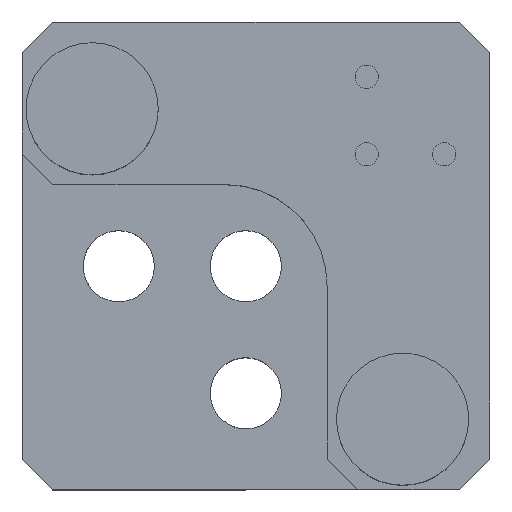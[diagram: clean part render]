
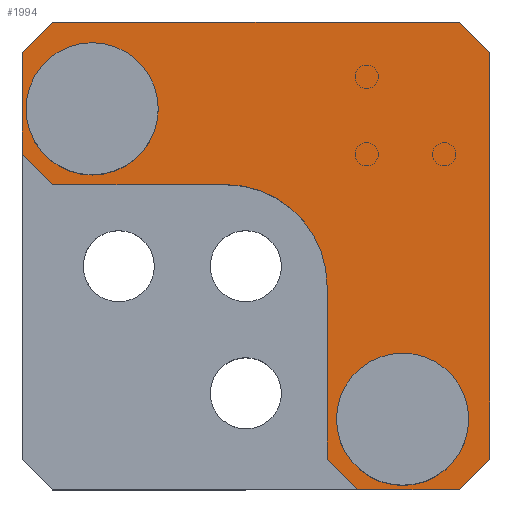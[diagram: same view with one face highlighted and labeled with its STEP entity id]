
A CAD part, top view. The second image highlights one B-rep face of the part: STEP entity #1994.
In plain terms, the highlighted planar face has unit normal (0, 0, -1).
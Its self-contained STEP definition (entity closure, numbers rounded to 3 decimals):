
#57 = VECTOR ( 'NONE', #2281, 1000. ) ;
#66 = VERTEX_POINT ( 'NONE', #904 ) ;
#67 = EDGE_CURVE ( 'NONE', #829, #632, #1660, .T. ) ;
#104 = VERTEX_POINT ( 'NONE', #1348 ) ;
#127 = CARTESIAN_POINT ( 'NONE',  ( -44.488, 23.276, 48.8 ) ) ;
#201 = CARTESIAN_POINT ( 'NONE',  ( -7.068, -15.844, 48.8 ) ) ;
#213 = CARTESIAN_POINT ( 'NONE',  ( 1.512, -19.724, 48.8 ) ) ;
#221 = EDGE_CURVE ( 'NONE', #774, #507, #2237, .T. ) ;
#275 = AXIS2_PLACEMENT_3D ( 'NONE', #565, #1806, #579 ) ;
#279 = DIRECTION ( 'NONE',  ( -1., 0., 0. ) ) ;
#280 = CARTESIAN_POINT ( 'NONE',  ( -14.488, -22.724, 48.8 ) ) ;
#306 = DIRECTION ( 'NONE',  ( 1., 0., 0. ) ) ;
#340 = CARTESIAN_POINT ( 'NONE',  ( -14.488, -2.724, 48.8 ) ) ;
#358 = LINE ( 'NONE', #2143, #764 ) ;
#376 = CARTESIAN_POINT ( 'NONE',  ( -9.948, -15.844, 48.8 ) ) ;
#378 = CARTESIAN_POINT ( 'NONE',  ( -24.488, 7.276, 48.8 ) ) ;
#392 = VERTEX_POINT ( 'NONE', #488 ) ;
#394 = ORIENTED_EDGE ( 'NONE', *, *, #821, .F. ) ;
#407 = DIRECTION ( 'NONE',  ( 0.707, -0.707, 0. ) ) ;
#408 = CIRCLE ( 'NONE', #2111, 2.88 ) ;
#432 = EDGE_CURVE ( 'NONE', #1020, #774, #1934, .T. ) ;
#463 = VECTOR ( 'NONE', #1290, 1000. ) ;
#477 = VERTEX_POINT ( 'NONE', #703 ) ;
#483 = DIRECTION ( 'NONE',  ( 0., 0., -1. ) ) ;
#488 = CARTESIAN_POINT ( 'NONE',  ( -1.488, -22.724, 48.8 ) ) ;
#507 = VERTEX_POINT ( 'NONE', #1416 ) ;
#509 = DIRECTION ( 'NONE',  ( 0., 1., 0. ) ) ;
#543 = DIRECTION ( 'NONE',  ( -1., 0., 0. ) ) ;
#544 = DIRECTION ( 'NONE',  ( -0.707, 0.707, 0. ) ) ;
#548 = LINE ( 'NONE', #862, #57 ) ;
#565 = CARTESIAN_POINT ( 'NONE',  ( -37.608, 14.696, 48.8 ) ) ;
#566 = PLANE ( 'NONE',  #1614 ) ;
#572 = CARTESIAN_POINT ( 'NONE',  ( -14.488, -19.724, 48.8 ) ) ;
#579 = DIRECTION ( 'NONE',  ( -1., 0., 0. ) ) ;
#589 = ORIENTED_EDGE ( 'NONE', *, *, #1040, .F. ) ;
#622 = CARTESIAN_POINT ( 'NONE',  ( -40.488, 14.696, 48.8 ) ) ;
#632 = VERTEX_POINT ( 'NONE', #1611 ) ;
#648 = ORIENTED_EDGE ( 'NONE', *, *, #1166, .F. ) ;
#650 = CARTESIAN_POINT ( 'NONE',  ( -24.488, 7.276, 48.8 ) ) ;
#652 = DIRECTION ( 'NONE',  ( -1., 0., 0. ) ) ;
#666 = ORIENTED_EDGE ( 'NONE', *, *, #221, .F. ) ;
#668 = VERTEX_POINT ( 'NONE', #1156 ) ;
#692 = DIRECTION ( 'NONE',  ( 0., -1., 0. ) ) ;
#703 = CARTESIAN_POINT ( 'NONE',  ( -44.488, 10.276, 48.8 ) ) ;
#717 = VERTEX_POINT ( 'NONE', #971 ) ;
#745 = CIRCLE ( 'NONE', #275, 2.88 ) ;
#749 = DIRECTION ( 'NONE',  ( 0., 0., -1. ) ) ;
#764 = VECTOR ( 'NONE', #407, 1000. ) ;
#768 = FACE_BOUND ( 'NONE', #1477, .T. ) ;
#774 = VERTEX_POINT ( 'NONE', #1276 ) ;
#786 = CARTESIAN_POINT ( 'NONE',  ( -41.488, 7.276, 48.8 ) ) ;
#799 = CARTESIAN_POINT ( 'NONE',  ( -7.068, -15.844, 48.8 ) ) ;
#808 = ORIENTED_EDGE ( 'NONE', *, *, #67, .F. ) ;
#821 = EDGE_CURVE ( 'NONE', #717, #477, #2265, .T. ) ;
#829 = VERTEX_POINT ( 'NONE', #622 ) ;
#862 = CARTESIAN_POINT ( 'NONE',  ( 1.512, -22.724, 48.8 ) ) ;
#883 = VECTOR ( 'NONE', #544, 1000. ) ;
#904 = CARTESIAN_POINT ( 'NONE',  ( -4.188, -15.844, 48.8 ) ) ;
#906 = LINE ( 'NONE', #280, #2102 ) ;
#913 = DIRECTION ( 'NONE',  ( 0., 0., 1. ) ) ;
#926 = LINE ( 'NONE', #1018, #463 ) ;
#938 = VERTEX_POINT ( 'NONE', #378 ) ;
#971 = CARTESIAN_POINT ( 'NONE',  ( -44.488, 20.276, 48.8 ) ) ;
#992 = EDGE_CURVE ( 'NONE', #392, #668, #1296, .T. ) ;
#1018 = CARTESIAN_POINT ( 'NONE',  ( -11.488, -22.724, 48.8 ) ) ;
#1020 = VERTEX_POINT ( 'NONE', #1777 ) ;
#1040 = EDGE_CURVE ( 'NONE', #477, #1938, #358, .T. ) ;
#1057 = AXIS2_PLACEMENT_3D ( 'NONE', #1260, #749, #1990 ) ;
#1076 = ORIENTED_EDGE ( 'NONE', *, *, #2002, .F. ) ;
#1095 = DIRECTION ( 'NONE',  ( 1., 0., 0. ) ) ;
#1121 = VECTOR ( 'NONE', #1427, 1000. ) ;
#1134 = VERTEX_POINT ( 'NONE', #340 ) ;
#1147 = EDGE_CURVE ( 'NONE', #66, #2224, #408, .T. ) ;
#1156 = CARTESIAN_POINT ( 'NONE',  ( 1.512, -19.724, 48.8 ) ) ;
#1163 = CARTESIAN_POINT ( 'NONE',  ( -24.488, -2.724, 48.8 ) ) ;
#1166 = EDGE_CURVE ( 'NONE', #104, #392, #548, .T. ) ;
#1174 = DIRECTION ( 'NONE',  ( 0., 0., -1. ) ) ;
#1249 = ORIENTED_EDGE ( 'NONE', *, *, #1147, .F. ) ;
#1260 = CARTESIAN_POINT ( 'NONE',  ( -37.608, 14.696, 48.8 ) ) ;
#1270 = VECTOR ( 'NONE', #306, 1000. ) ;
#1276 = CARTESIAN_POINT ( 'NONE',  ( -1.488, 23.276, 48.8 ) ) ;
#1290 = DIRECTION ( 'NONE',  ( 0.707, -0.707, 0. ) ) ;
#1296 = LINE ( 'NONE', #213, #1121 ) ;
#1297 = EDGE_CURVE ( 'NONE', #2029, #104, #926, .T. ) ;
#1309 = ORIENTED_EDGE ( 'NONE', *, *, #1328, .F. ) ;
#1328 = EDGE_CURVE ( 'NONE', #2224, #66, #1713, .T. ) ;
#1348 = CARTESIAN_POINT ( 'NONE',  ( -11.488, -22.724, 48.8 ) ) ;
#1364 = ORIENTED_EDGE ( 'NONE', *, *, #2166, .F. ) ;
#1414 = EDGE_CURVE ( 'NONE', #668, #1020, #1519, .T. ) ;
#1416 = CARTESIAN_POINT ( 'NONE',  ( -41.488, 23.276, 48.8 ) ) ;
#1427 = DIRECTION ( 'NONE',  ( 0.707, 0.707, 0. ) ) ;
#1450 = CARTESIAN_POINT ( 'NONE',  ( -24.488, -2.724, 48.8 ) ) ;
#1477 = EDGE_LOOP ( 'NONE', ( #808, #2216 ) ) ;
#1487 = VECTOR ( 'NONE', #2210, 1000. ) ;
#1503 = ORIENTED_EDGE ( 'NONE', *, *, #2005, .F. ) ;
#1519 = LINE ( 'NONE', #1737, #2261 ) ;
#1530 = LINE ( 'NONE', #2209, #1802 ) ;
#1533 = EDGE_LOOP ( 'NONE', ( #1309, #1249 ) ) ;
#1591 = DIRECTION ( 'NONE',  ( 0., 0., -1. ) ) ;
#1592 = AXIS2_PLACEMENT_3D ( 'NONE', #1163, #483, #1889 ) ;
#1611 = CARTESIAN_POINT ( 'NONE',  ( -34.728, 14.696, 48.8 ) ) ;
#1614 = AXIS2_PLACEMENT_3D ( 'NONE', #1450, #913, #1095 ) ;
#1630 = VECTOR ( 'NONE', #279, 1000. ) ;
#1643 = CARTESIAN_POINT ( 'NONE',  ( -44.488, 7.276, 48.8 ) ) ;
#1660 = CIRCLE ( 'NONE', #1057, 2.88 ) ;
#1662 = FACE_BOUND ( 'NONE', #1533, .T. ) ;
#1681 = EDGE_CURVE ( 'NONE', #938, #1134, #1870, .T. ) ;
#1688 = AXIS2_PLACEMENT_3D ( 'NONE', #799, #1174, #652 ) ;
#1713 = CIRCLE ( 'NONE', #1688, 2.88 ) ;
#1737 = CARTESIAN_POINT ( 'NONE',  ( 1.512, 23.276, 48.8 ) ) ;
#1755 = CARTESIAN_POINT ( 'NONE',  ( -1.488, 23.276, 48.8 ) ) ;
#1777 = CARTESIAN_POINT ( 'NONE',  ( 1.512, 20.276, 48.8 ) ) ;
#1802 = VECTOR ( 'NONE', #2024, 1000. ) ;
#1806 = DIRECTION ( 'NONE',  ( 0., 0., -1. ) ) ;
#1809 = ORIENTED_EDGE ( 'NONE', *, *, #432, .F. ) ;
#1870 = CIRCLE ( 'NONE', #1592, 10. ) ;
#1889 = DIRECTION ( 'NONE',  ( -1., 0., 0. ) ) ;
#1891 = ORIENTED_EDGE ( 'NONE', *, *, #1681, .F. ) ;
#1922 = ORIENTED_EDGE ( 'NONE', *, *, #1297, .F. ) ;
#1934 = LINE ( 'NONE', #1755, #883 ) ;
#1938 = VERTEX_POINT ( 'NONE', #786 ) ;
#1990 = DIRECTION ( 'NONE',  ( -1., 0., 0. ) ) ;
#1994 = ADVANCED_FACE ( 'NONE', ( #2125, #768, #1662 ), #566, .F. ) ;
#2002 = EDGE_CURVE ( 'NONE', #507, #717, #1530, .T. ) ;
#2005 = EDGE_CURVE ( 'NONE', #1134, #2029, #906, .T. ) ;
#2024 = DIRECTION ( 'NONE',  ( -0.707, -0.707, 0. ) ) ;
#2029 = VERTEX_POINT ( 'NONE', #572 ) ;
#2051 = LINE ( 'NONE', #650, #1270 ) ;
#2102 = VECTOR ( 'NONE', #692, 1000. ) ;
#2111 = AXIS2_PLACEMENT_3D ( 'NONE', #201, #1591, #543 ) ;
#2117 = EDGE_CURVE ( 'NONE', #632, #829, #745, .T. ) ;
#2125 = FACE_OUTER_BOUND ( 'NONE', #2195, .T. ) ;
#2143 = CARTESIAN_POINT ( 'NONE',  ( -41.488, 7.276, 48.8 ) ) ;
#2166 = EDGE_CURVE ( 'NONE', #1938, #938, #2051, .T. ) ;
#2193 = ORIENTED_EDGE ( 'NONE', *, *, #992, .F. ) ;
#2195 = EDGE_LOOP ( 'NONE', ( #1503, #1891, #1364, #589, #394, #1076, #666, #1809, #2282, #2193, #648, #1922 ) ) ;
#2209 = CARTESIAN_POINT ( 'NONE',  ( -44.488, 20.276, 48.8 ) ) ;
#2210 = DIRECTION ( 'NONE',  ( 0., -1., 0. ) ) ;
#2216 = ORIENTED_EDGE ( 'NONE', *, *, #2117, .F. ) ;
#2224 = VERTEX_POINT ( 'NONE', #376 ) ;
#2237 = LINE ( 'NONE', #127, #1630 ) ;
#2261 = VECTOR ( 'NONE', #509, 1000. ) ;
#2265 = LINE ( 'NONE', #1643, #1487 ) ;
#2281 = DIRECTION ( 'NONE',  ( 1., 0., 0. ) ) ;
#2282 = ORIENTED_EDGE ( 'NONE', *, *, #1414, .F. ) ;
